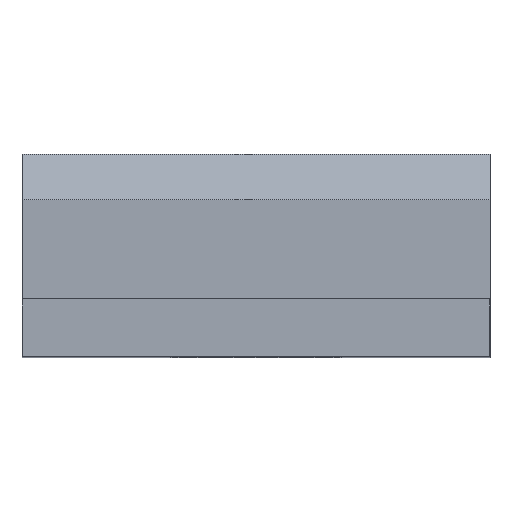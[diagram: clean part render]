
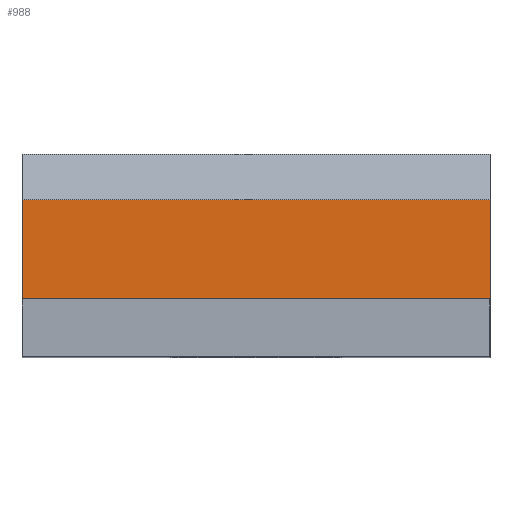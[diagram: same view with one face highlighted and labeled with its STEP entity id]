
A CAD part, top view. The second image highlights one B-rep face of the part: STEP entity #988.
In plain terms, the highlighted planar face has unit normal (0, 0, 1).
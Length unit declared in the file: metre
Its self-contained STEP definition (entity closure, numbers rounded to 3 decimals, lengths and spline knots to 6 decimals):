
#259=ORIENTED_EDGE('',*,*,#427,.F.);
#260=ORIENTED_EDGE('',*,*,#428,.T.);
#261=ORIENTED_EDGE('',*,*,#414,.T.);
#262=ORIENTED_EDGE('',*,*,#426,.F.);
#263=ORIENTED_EDGE('',*,*,#385,.F.);
#264=ORIENTED_EDGE('',*,*,#387,.F.);
#265=ORIENTED_EDGE('',*,*,#389,.F.);
#266=ORIENTED_EDGE('',*,*,#425,.F.);
#385=EDGE_CURVE('',#498,#499,#612,.T.);
#387=EDGE_CURVE('',#500,#498,#614,.T.);
#389=EDGE_CURVE('',#501,#500,#616,.T.);
#414=EDGE_CURVE('',#517,#516,#641,.T.);
#425=EDGE_CURVE('',#522,#501,#652,.T.);
#426=EDGE_CURVE('',#499,#516,#653,.T.);
#427=EDGE_CURVE('',#523,#522,#654,.T.);
#428=EDGE_CURVE('',#523,#517,#655,.T.);
#498=VERTEX_POINT('',#1524);
#499=VERTEX_POINT('',#1526);
#500=VERTEX_POINT('',#1530);
#501=VERTEX_POINT('',#1534);
#516=VERTEX_POINT('',#1583);
#517=VERTEX_POINT('',#1585);
#522=VERTEX_POINT('',#1602);
#523=VERTEX_POINT('',#1607);
#612=LINE('',#1525,#747);
#614=LINE('',#1529,#749);
#616=LINE('',#1533,#751);
#641=LINE('',#1584,#776);
#652=LINE('',#1603,#787);
#653=LINE('',#1604,#788);
#654=LINE('',#1606,#789);
#655=LINE('',#1608,#790);
#747=VECTOR('',#1255,1.);
#749=VECTOR('',#1259,1.);
#751=VECTOR('',#1263,1.);
#776=VECTOR('',#1308,1.);
#787=VECTOR('',#1323,1.);
#788=VECTOR('',#1324,1.);
#789=VECTOR('',#1327,1.);
#790=VECTOR('',#1328,1.);
#842=EDGE_LOOP('',(#259,#260,#261,#262,#263,#264,#265,#266));
#893=FACE_BOUND('',#842,.T.);
#940=PLANE('',#1100);
#988=ADVANCED_FACE('',(#893),#940,.T.);
#1100=AXIS2_PLACEMENT_3D('',#1605,#1325,#1326);
#1255=DIRECTION('',(0.,-1.,0.));
#1259=DIRECTION('',(-1.,0.,0.));
#1263=DIRECTION('',(0.,1.,0.));
#1308=DIRECTION('',(0.,-1.,0.));
#1323=DIRECTION('',(-1.,0.,0.));
#1324=DIRECTION('',(-1.,0.,0.));
#1325=DIRECTION('',(0.,0.,1.));
#1326=DIRECTION('',(0.,-1.,0.));
#1327=DIRECTION('',(0.,-1.,0.));
#1328=DIRECTION('',(-1.,0.,0.));
#1524=CARTESIAN_POINT('',(0.164345,-0.08589,0.01447));
#1525=CARTESIAN_POINT('',(0.164345,-0.085433,0.01447));
#1526=CARTESIAN_POINT('',(0.164345,-0.08715,0.01447));
#1529=CARTESIAN_POINT('',(0.169465,-0.08589,0.01447));
#1530=CARTESIAN_POINT('',(0.174575,-0.08589,0.01447));
#1533=CARTESIAN_POINT('',(0.174575,-0.084798,0.01447));
#1534=CARTESIAN_POINT('',(0.174575,-0.08715,0.01447));
#1583=CARTESIAN_POINT('',(0.164335,-0.08715,0.01447));
#1584=CARTESIAN_POINT('',(0.164335,-0.083705,0.01447));
#1585=CARTESIAN_POINT('',(0.164335,-0.083705,0.01447));
#1602=CARTESIAN_POINT('',(0.174585,-0.08715,0.01447));
#1603=CARTESIAN_POINT('',(0.174585,-0.08715,0.01447));
#1604=CARTESIAN_POINT('',(0.174585,-0.08715,0.01447));
#1605=CARTESIAN_POINT('',(0.174585,-0.083705,0.01447));
#1606=CARTESIAN_POINT('',(0.174585,-0.083705,0.01447));
#1607=CARTESIAN_POINT('',(0.174585,-0.083705,0.01447));
#1608=CARTESIAN_POINT('',(0.174585,-0.083705,0.01447));
